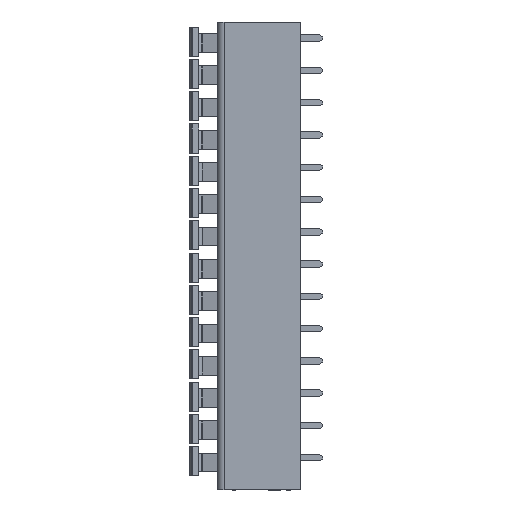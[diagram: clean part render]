
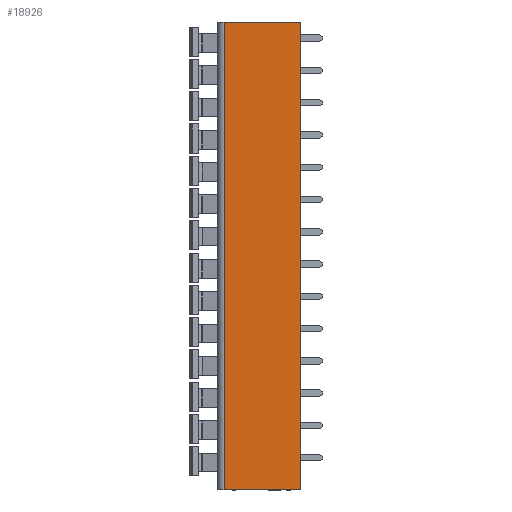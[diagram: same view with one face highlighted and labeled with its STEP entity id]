
A CAD part, left-side view. The second image highlights one B-rep face of the part: STEP entity #18926.
In plain terms, the highlighted planar face has unit normal (-1, 0, 0).
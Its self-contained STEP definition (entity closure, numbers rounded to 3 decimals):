
#17477 = EDGE_CURVE ( 'NONE', #41963, #17478, #22759, .T. ) ;
#17478 = VERTEX_POINT ( 'NONE', #22755 ) ;
#18926 = ADVANCED_FACE ( 'NONE', ( #27551 ), #27546, .F. ) ;
#18927 = EDGE_LOOP ( 'NONE', ( #18928, #18929, #18930, #18933 ) ) ;
#18928 = ORIENTED_EDGE ( 'NONE', *, *, #17477, .F. ) ;
#18929 = ORIENTED_EDGE ( 'NONE', *, *, #41971, .F. ) ;
#18930 = ORIENTED_EDGE ( 'NONE', *, *, #18931, .F. ) ;
#18931 = EDGE_CURVE ( 'NONE', #18932, #41969, #27536, .T. ) ;
#18932 = VERTEX_POINT ( 'NONE', #27527 ) ;
#18933 = ORIENTED_EDGE ( 'NONE', *, *, #18934, .T. ) ;
#18934 = EDGE_CURVE ( 'NONE', #18932, #17478, #25975, .T. ) ;
#22755 = CARTESIAN_POINT ( 'NONE',  ( -6.802, -5.512, 0. ) ) ;
#22756 = DIRECTION ( 'NONE',  ( 0., -1., 0. ) ) ;
#22757 = VECTOR ( 'NONE', #22756, 1000. ) ;
#22758 = CARTESIAN_POINT ( 'NONE',  ( -6.802, 0.388, 0. ) ) ;
#22759 = LINE ( 'NONE', #22758, #22757 ) ;
#25975 = LINE ( 'NONE', #26498, #27017 ) ;
#26498 = CARTESIAN_POINT ( 'NONE',  ( -6.802, -5.512, 0. ) ) ;
#27010 = DIRECTION ( 'NONE',  ( 0., 0., 1. ) ) ;
#27017 = VECTOR ( 'NONE', #27010, 1000. ) ;
#27527 = CARTESIAN_POINT ( 'NONE',  ( -6.802, -5.512, -72.5 ) ) ;
#27533 = DIRECTION ( 'NONE',  ( 0., 1., 0. ) ) ;
#27534 = VECTOR ( 'NONE', #27533, 1000. ) ;
#27535 = CARTESIAN_POINT ( 'NONE',  ( -6.802, 0.888, -72.5 ) ) ;
#27536 = LINE ( 'NONE', #27535, #27534 ) ;
#27540 = DIRECTION ( 'NONE',  ( 0., 0., -1. ) ) ;
#27543 = DIRECTION ( 'NONE',  ( 1., 0., 0. ) ) ;
#27544 = CARTESIAN_POINT ( 'NONE',  ( -6.802, -5.512, 0. ) ) ;
#27545 = AXIS2_PLACEMENT_3D ( 'NONE', #27544, #27543, #27540 ) ;
#27546 = PLANE ( 'NONE',  #27545 ) ;
#27551 = FACE_OUTER_BOUND ( 'NONE', #18927, .T. ) ;
#31783 = DIRECTION ( 'NONE',  ( 0., 0., 1. ) ) ;
#31784 = VECTOR ( 'NONE', #31783, 1000. ) ;
#31785 = CARTESIAN_POINT ( 'NONE',  ( -6.802, 6.288, -36.25 ) ) ;
#31786 = LINE ( 'NONE', #31785, #31784 ) ;
#31787 = CARTESIAN_POINT ( 'NONE',  ( -6.802, 6.288, -72.5 ) ) ;
#31798 = CARTESIAN_POINT ( 'NONE',  ( -6.802, 6.288, 0. ) ) ;
#41963 = VERTEX_POINT ( 'NONE', #31798 ) ;
#41969 = VERTEX_POINT ( 'NONE', #31787 ) ;
#41971 = EDGE_CURVE ( 'NONE', #41969, #41963, #31786, .T. ) ;
